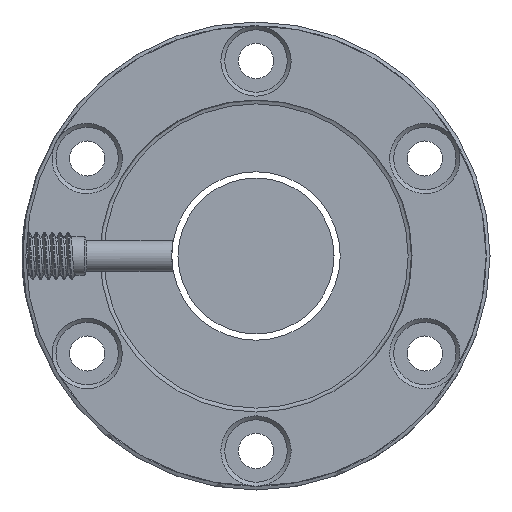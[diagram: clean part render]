
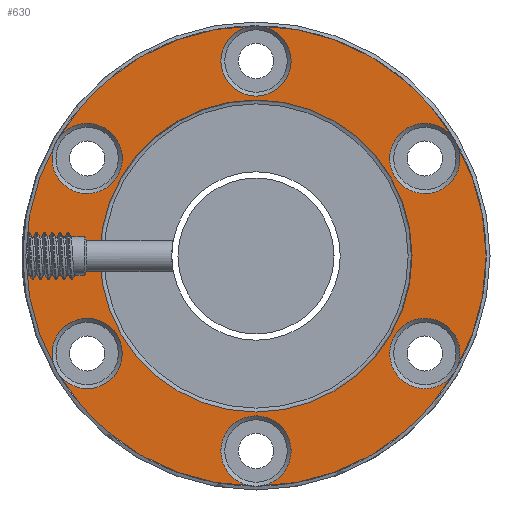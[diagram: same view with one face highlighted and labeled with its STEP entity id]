
A CAD part, left-side view. The second image highlights one B-rep face of the part: STEP entity #630.
In plain terms, the highlighted planar face has unit normal (1, 0, 0).
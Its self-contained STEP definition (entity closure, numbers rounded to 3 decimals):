
#6 = EDGE_CURVE ( 'NONE', #851, #851, #1793, .T. ) ;
#38 = ORIENTED_EDGE ( 'NONE', *, *, #2055, .T. ) ;
#242 = ORIENTED_EDGE ( 'NONE', *, *, #2945, .T. ) ;
#277 = CARTESIAN_POINT ( 'NONE',  ( -40., -21.651, 12.5 ) ) ;
#290 = ORIENTED_EDGE ( 'NONE', *, *, #6, .T. ) ;
#308 = CIRCLE ( 'NONE', #1997, 2.75 ) ;
#314 = DIRECTION ( 'NONE',  ( -1., 0., 0. ) ) ;
#429 = CARTESIAN_POINT ( 'NONE',  ( -40., 0., 0. ) ) ;
#439 = CIRCLE ( 'NONE', #1601, 29.5 ) ;
#447 = VERTEX_POINT ( 'NONE', #2051 ) ;
#488 = AXIS2_PLACEMENT_3D ( 'NONE', #2714, #1098, #1580 ) ;
#496 = AXIS2_PLACEMENT_3D ( 'NONE', #1883, #1040, #1434 ) ;
#601 = EDGE_CURVE ( 'NONE', #1352, #1352, #1981, .T. ) ;
#604 = DIRECTION ( 'NONE',  ( -1., 0., 0. ) ) ;
#628 = FACE_BOUND ( 'NONE', #1737, .T. ) ;
#630 = ADVANCED_FACE ( 'NONE', ( #1243, #2547, #2103, #628, #1953, #2413, #1869, #730 ), #2562, .T. ) ;
#668 = EDGE_LOOP ( 'NONE', ( #242 ) ) ;
#680 = ORIENTED_EDGE ( 'NONE', *, *, #1686, .F. ) ;
#696 = EDGE_LOOP ( 'NONE', ( #1636 ) ) ;
#730 = FACE_BOUND ( 'NONE', #965, .T. ) ;
#827 = EDGE_CURVE ( 'NONE', #1523, #1523, #2269, .T. ) ;
#837 = CARTESIAN_POINT ( 'NONE',  ( -40., 0., -25. ) ) ;
#851 = VERTEX_POINT ( 'NONE', #1768 ) ;
#891 = ORIENTED_EDGE ( 'NONE', *, *, #1006, .T. ) ;
#910 = VERTEX_POINT ( 'NONE', #2540 ) ;
#940 = ORIENTED_EDGE ( 'NONE', *, *, #827, .T. ) ;
#965 = EDGE_LOOP ( 'NONE', ( #680 ) ) ;
#998 = DIRECTION ( 'NONE',  ( 1., 0., 0. ) ) ;
#1006 = EDGE_CURVE ( 'NONE', #1297, #1297, #439, .T. ) ;
#1040 = DIRECTION ( 'NONE',  ( 1., 0., 0. ) ) ;
#1098 = DIRECTION ( 'NONE',  ( -1., 0., 0. ) ) ;
#1177 = EDGE_LOOP ( 'NONE', ( #891 ) ) ;
#1196 = DIRECTION ( 'NONE',  ( 1., 0., 0. ) ) ;
#1243 = FACE_OUTER_BOUND ( 'NONE', #1177, .T. ) ;
#1296 = DIRECTION ( 'NONE',  ( -1., 0., 0. ) ) ;
#1297 = VERTEX_POINT ( 'NONE', #1781 ) ;
#1352 = VERTEX_POINT ( 'NONE', #2452 ) ;
#1386 = VERTEX_POINT ( 'NONE', #2301 ) ;
#1392 = CARTESIAN_POINT ( 'NONE',  ( -40., 0., 25. ) ) ;
#1434 = DIRECTION ( 'NONE',  ( 0., 0., -1. ) ) ;
#1451 = DIRECTION ( 'NONE',  ( 0., 0., -1. ) ) ;
#1509 = AXIS2_PLACEMENT_3D ( 'NONE', #277, #604, #1735 ) ;
#1523 = VERTEX_POINT ( 'NONE', #2213 ) ;
#1580 = DIRECTION ( 'NONE',  ( 0., 0., -1. ) ) ;
#1601 = AXIS2_PLACEMENT_3D ( 'NONE', #429, #1196, #2813 ) ;
#1636 = ORIENTED_EDGE ( 'NONE', *, *, #1765, .T. ) ;
#1641 = CARTESIAN_POINT ( 'NONE',  ( -40., 21.651, -12.5 ) ) ;
#1686 = EDGE_CURVE ( 'NONE', #2034, #2034, #2273, .T. ) ;
#1735 = DIRECTION ( 'NONE',  ( 0., 0., -1. ) ) ;
#1737 = EDGE_LOOP ( 'NONE', ( #290 ) ) ;
#1765 = EDGE_CURVE ( 'NONE', #910, #910, #2611, .T. ) ;
#1768 = CARTESIAN_POINT ( 'NONE',  ( -40., 21.651, 9.75 ) ) ;
#1781 = CARTESIAN_POINT ( 'NONE',  ( -40., 0., -29.5 ) ) ;
#1793 = CIRCLE ( 'NONE', #488, 2.75 ) ;
#1869 = FACE_BOUND ( 'NONE', #668, .T. ) ;
#1883 = CARTESIAN_POINT ( 'NONE',  ( -40., 0., 0. ) ) ;
#1893 = EDGE_LOOP ( 'NONE', ( #1913 ) ) ;
#1913 = ORIENTED_EDGE ( 'NONE', *, *, #601, .T. ) ;
#1929 = EDGE_LOOP ( 'NONE', ( #38 ) ) ;
#1953 = FACE_BOUND ( 'NONE', #1893, .T. ) ;
#1981 = CIRCLE ( 'NONE', #2414, 2.75 ) ;
#1991 = DIRECTION ( 'NONE',  ( -1., 0., 0. ) ) ;
#1997 = AXIS2_PLACEMENT_3D ( 'NONE', #2230, #1991, #2274 ) ;
#2018 = DIRECTION ( 'NONE',  ( 0., 0., -1. ) ) ;
#2034 = VERTEX_POINT ( 'NONE', #2944 ) ;
#2051 = CARTESIAN_POINT ( 'NONE',  ( -40., -21.651, -15.25 ) ) ;
#2055 = EDGE_CURVE ( 'NONE', #1386, #1386, #2939, .T. ) ;
#2080 = EDGE_LOOP ( 'NONE', ( #940 ) ) ;
#2103 = FACE_BOUND ( 'NONE', #1929, .T. ) ;
#2213 = CARTESIAN_POINT ( 'NONE',  ( -40., 0., -27.75 ) ) ;
#2227 = AXIS2_PLACEMENT_3D ( 'NONE', #1392, #2579, #2307 ) ;
#2230 = CARTESIAN_POINT ( 'NONE',  ( -40., -21.651, -12.5 ) ) ;
#2269 = CIRCLE ( 'NONE', #2652, 2.75 ) ;
#2273 = CIRCLE ( 'NONE', #496, 20. ) ;
#2274 = DIRECTION ( 'NONE',  ( 0., 0., -1. ) ) ;
#2301 = CARTESIAN_POINT ( 'NONE',  ( -40., 0., 22.25 ) ) ;
#2307 = DIRECTION ( 'NONE',  ( 0., 0., -1. ) ) ;
#2380 = DIRECTION ( 'NONE',  ( 0., 0., -1. ) ) ;
#2413 = FACE_BOUND ( 'NONE', #2080, .T. ) ;
#2414 = AXIS2_PLACEMENT_3D ( 'NONE', #1641, #314, #1451 ) ;
#2452 = CARTESIAN_POINT ( 'NONE',  ( -40., 21.651, -15.25 ) ) ;
#2540 = CARTESIAN_POINT ( 'NONE',  ( -40., -21.651, 9.75 ) ) ;
#2547 = FACE_BOUND ( 'NONE', #696, .T. ) ;
#2562 = PLANE ( 'NONE',  #2793 ) ;
#2579 = DIRECTION ( 'NONE',  ( -1., 0., 0. ) ) ;
#2591 = CARTESIAN_POINT ( 'NONE',  ( -40., 20., 0. ) ) ;
#2611 = CIRCLE ( 'NONE', #1509, 2.75 ) ;
#2652 = AXIS2_PLACEMENT_3D ( 'NONE', #837, #1296, #2018 ) ;
#2714 = CARTESIAN_POINT ( 'NONE',  ( -40., 21.651, 12.5 ) ) ;
#2793 = AXIS2_PLACEMENT_3D ( 'NONE', #2591, #998, #2380 ) ;
#2813 = DIRECTION ( 'NONE',  ( 0., 0., -1. ) ) ;
#2939 = CIRCLE ( 'NONE', #2227, 2.75 ) ;
#2944 = CARTESIAN_POINT ( 'NONE',  ( -40., 0., -20. ) ) ;
#2945 = EDGE_CURVE ( 'NONE', #447, #447, #308, .T. ) ;
